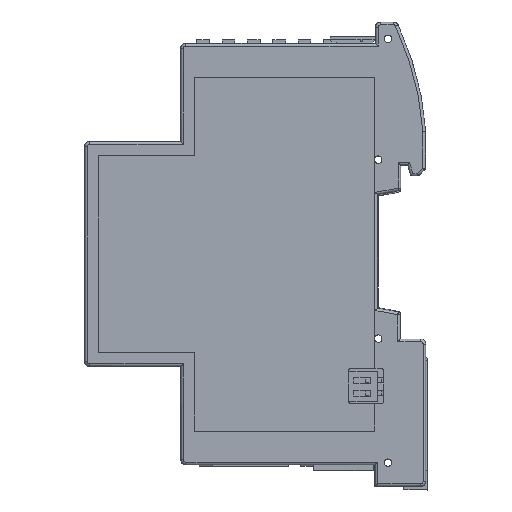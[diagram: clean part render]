
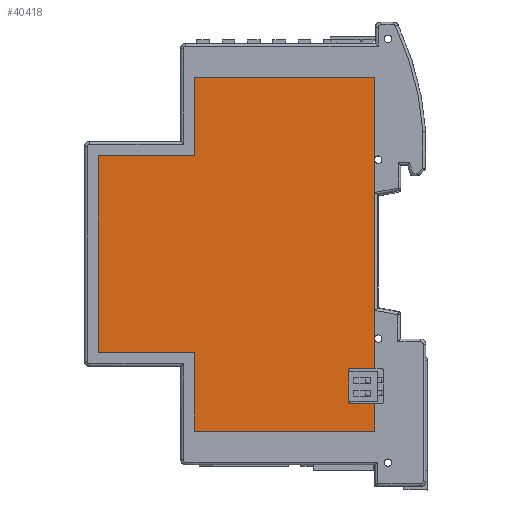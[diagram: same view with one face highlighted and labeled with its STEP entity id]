
A CAD part, top view. The second image highlights one B-rep face of the part: STEP entity #40418.
In plain terms, the highlighted planar face has unit normal (0, 0, 1).
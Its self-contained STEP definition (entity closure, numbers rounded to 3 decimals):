
#357=CIRCLE('',#42401,0.4);
#359=CIRCLE('',#42405,0.4);
#373=CIRCLE('',#42443,0.75);
#379=CIRCLE('',#42457,0.75);
#1171=PLANE('',#42465);
#4262=ORIENTED_EDGE('',*,*,#12946,.T.);
#4263=ORIENTED_EDGE('',*,*,#12891,.T.);
#4264=ORIENTED_EDGE('',*,*,#12872,.T.);
#4265=ORIENTED_EDGE('',*,*,#12875,.T.);
#4266=ORIENTED_EDGE('',*,*,#12878,.T.);
#4267=ORIENTED_EDGE('',*,*,#12894,.T.);
#4268=ORIENTED_EDGE('',*,*,#12830,.T.);
#4269=ORIENTED_EDGE('',*,*,#12933,.F.);
#4270=ORIENTED_EDGE('',*,*,#12947,.T.);
#4271=ORIENTED_EDGE('',*,*,#12941,.F.);
#4272=ORIENTED_EDGE('',*,*,#12948,.T.);
#4273=ORIENTED_EDGE('',*,*,#12838,.T.);
#4274=ORIENTED_EDGE('',*,*,#12901,.T.);
#4275=ORIENTED_EDGE('',*,*,#12934,.T.);
#4276=ORIENTED_EDGE('',*,*,#12807,.T.);
#4277=ORIENTED_EDGE('',*,*,#12851,.T.);
#4278=ORIENTED_EDGE('',*,*,#12841,.T.);
#4279=ORIENTED_EDGE('',*,*,#12829,.T.);
#12807=EDGE_CURVE('',#17874,#17873,#21623,.T.);
#12829=EDGE_CURVE('',#17888,#17891,#21632,.T.);
#12830=EDGE_CURVE('',#17892,#17893,#21633,.T.);
#12838=EDGE_CURVE('',#17901,#17900,#21639,.T.);
#12841=EDGE_CURVE('',#17903,#17888,#21642,.T.);
#12851=EDGE_CURVE('',#17873,#17903,#21646,.T.);
#12872=EDGE_CURVE('',#17918,#17921,#357,.T.);
#12875=EDGE_CURVE('',#17921,#17923,#21658,.T.);
#12878=EDGE_CURVE('',#17923,#17925,#359,.T.);
#12891=EDGE_CURVE('',#17935,#17918,#21668,.T.);
#12894=EDGE_CURVE('',#17925,#17892,#21671,.T.);
#12901=EDGE_CURVE('',#17900,#17940,#21674,.T.);
#12933=EDGE_CURVE('',#17955,#17893,#373,.T.);
#12934=EDGE_CURVE('',#17940,#17874,#21692,.T.);
#12941=EDGE_CURVE('',#17956,#17957,#379,.T.);
#12946=EDGE_CURVE('',#17891,#17935,#21695,.T.);
#12947=EDGE_CURVE('',#17955,#17957,#21696,.T.);
#12948=EDGE_CURVE('',#17956,#17901,#21697,.T.);
#17873=VERTEX_POINT('',#56375);
#17874=VERTEX_POINT('',#56377);
#17888=VERTEX_POINT('',#56542);
#17891=VERTEX_POINT('',#56547);
#17892=VERTEX_POINT('',#56551);
#17893=VERTEX_POINT('',#56552);
#17900=VERTEX_POINT('',#56568);
#17901=VERTEX_POINT('',#56570);
#17903=VERTEX_POINT('',#56576);
#17918=VERTEX_POINT('',#56632);
#17921=VERTEX_POINT('',#56637);
#17923=VERTEX_POINT('',#56643);
#17925=VERTEX_POINT('',#56649);
#17935=VERTEX_POINT('',#56677);
#17940=VERTEX_POINT('',#56698);
#17955=VERTEX_POINT('',#56749);
#17956=VERTEX_POINT('',#56766);
#17957=VERTEX_POINT('',#56768);
#21623=LINE('',#56376,#26003);
#21632=LINE('',#56548,#26012);
#21633=LINE('',#56550,#26013);
#21639=LINE('',#56569,#26019);
#21642=LINE('',#56575,#26022);
#21646=LINE('',#56595,#26026);
#21658=LINE('',#56644,#26038);
#21668=LINE('',#56676,#26048);
#21671=LINE('',#56681,#26051);
#21674=LINE('',#56697,#26054);
#21692=LINE('',#56752,#26072);
#21695=LINE('',#56780,#26075);
#21696=LINE('',#56781,#26076);
#21697=LINE('',#56782,#26077);
#26003=VECTOR('',#46285,1000.);
#26012=VECTOR('',#46324,1000.);
#26013=VECTOR('',#46327,1000.);
#26019=VECTOR('',#46341,1000.);
#26022=VECTOR('',#46346,1000.);
#26026=VECTOR('',#46370,1000.);
#26038=VECTOR('',#46426,1000.);
#26048=VECTOR('',#46458,1000.);
#26051=VECTOR('',#46463,1000.);
#26054=VECTOR('',#46484,1000.);
#26072=VECTOR('',#46544,1000.);
#26075=VECTOR('',#46589,1000.);
#26076=VECTOR('',#46590,1000.);
#26077=VECTOR('',#46591,1000.);
#29946=EDGE_LOOP('',(#4262,#4263,#4264,#4265,#4266,#4267,#4268,#4269,#4270,
#4271,#4272,#4273,#4274,#4275,#4276,#4277,#4278,#4279));
#31892=FACE_BOUND('',#29946,.T.);
#40418=ADVANCED_FACE('',(#31892),#1171,.F.);
#42401=AXIS2_PLACEMENT_3D('',#56638,#46420,#46421);
#42405=AXIS2_PLACEMENT_3D('',#56650,#46432,#46433);
#42443=AXIS2_PLACEMENT_3D('',#56750,#46540,#46541);
#42457=AXIS2_PLACEMENT_3D('',#56767,#46570,#46571);
#42465=AXIS2_PLACEMENT_3D('',#56779,#46587,#46588);
#46285=DIRECTION('',(0.,-1.,0.));
#46324=DIRECTION('',(1.,0.,0.));
#46327=DIRECTION('',(0.,1.,0.));
#46341=DIRECTION('',(-1.,0.,0.));
#46346=DIRECTION('',(0.,-1.,0.));
#46370=DIRECTION('',(1.,0.,0.));
#46420=DIRECTION('',(0.,0.,-1.));
#46421=DIRECTION('',(0.,1.,0.));
#46426=DIRECTION('',(0.,1.,0.));
#46432=DIRECTION('',(0.,0.,-1.));
#46433=DIRECTION('',(0.,1.,0.));
#46458=DIRECTION('',(-1.,0.,0.));
#46463=DIRECTION('',(1.,0.,0.));
#46484=DIRECTION('',(0.,-1.,0.));
#46540=DIRECTION('',(0.,0.,1.));
#46541=DIRECTION('',(0.,1.,0.));
#46544=DIRECTION('',(-1.,0.,0.));
#46570=DIRECTION('',(0.,0.,1.));
#46571=DIRECTION('',(0.,1.,0.));
#46587=DIRECTION('',(0.,0.,-1.));
#46588=DIRECTION('',(0.,-1.,0.));
#46589=DIRECTION('',(0.,1.,0.));
#46590=DIRECTION('',(0.,1.,0.));
#46591=DIRECTION('',(0.,1.,0.));
#56375=CARTESIAN_POINT('',(-77.185,-8.861,29.343));
#56376=CARTESIAN_POINT('',(-77.185,-54.678,29.343));
#56377=CARTESIAN_POINT('',(-77.185,30.535,29.343));
#56542=CARTESIAN_POINT('',(-57.923,-24.583,29.343));
#56547=CARTESIAN_POINT('',(-21.891,-24.583,29.343));
#56548=CARTESIAN_POINT('',(-67.409,-24.583,29.343));
#56550=CARTESIAN_POINT('',(-21.891,-44.519,29.343));
#56551=CARTESIAN_POINT('',(-21.891,-12.069,29.343));
#56552=CARTESIAN_POINT('',(-21.891,-6.37,29.343));
#56568=CARTESIAN_POINT('',(-57.923,46.257,29.343));
#56569=CARTESIAN_POINT('',(-21.891,46.257,29.343));
#56570=CARTESIAN_POINT('',(-21.891,46.257,29.343));
#56575=CARTESIAN_POINT('',(-57.923,-55.623,29.343));
#56576=CARTESIAN_POINT('',(-57.923,-8.861,29.343));
#56595=CARTESIAN_POINT('',(-39.907,-8.861,29.343));
#56632=CARTESIAN_POINT('',(-26.709,-19.069,29.343));
#56637=CARTESIAN_POINT('',(-27.109,-18.669,29.343));
#56638=CARTESIAN_POINT('',(-26.709,-18.669,29.343));
#56643=CARTESIAN_POINT('',(-27.109,-12.469,29.343));
#56644=CARTESIAN_POINT('',(-27.109,-99.583,29.343));
#56649=CARTESIAN_POINT('',(-26.709,-12.069,29.343));
#56650=CARTESIAN_POINT('',(-26.709,-12.469,29.343));
#56676=CARTESIAN_POINT('',(-21.891,-19.069,29.343));
#56677=CARTESIAN_POINT('',(-21.891,-19.069,29.343));
#56681=CARTESIAN_POINT('',(-21.891,-12.069,29.343));
#56697=CARTESIAN_POINT('',(-57.923,-33.123,29.343));
#56698=CARTESIAN_POINT('',(-57.923,30.535,29.343));
#56749=CARTESIAN_POINT('',(-21.891,-5.79,29.343));
#56750=CARTESIAN_POINT('',(-21.199,-6.08,29.343));
#56752=CARTESIAN_POINT('',(-49.503,30.535,29.343));
#56766=CARTESIAN_POINT('',(-21.891,30.032,29.343));
#56767=CARTESIAN_POINT('',(-21.199,29.742,29.343));
#56768=CARTESIAN_POINT('',(-21.891,29.452,29.343));
#56779=CARTESIAN_POINT('',(-21.891,-99.583,29.343));
#56780=CARTESIAN_POINT('',(-21.891,-44.519,29.343));
#56781=CARTESIAN_POINT('',(-21.891,-44.519,29.343));
#56782=CARTESIAN_POINT('',(-21.891,-44.519,29.343));
